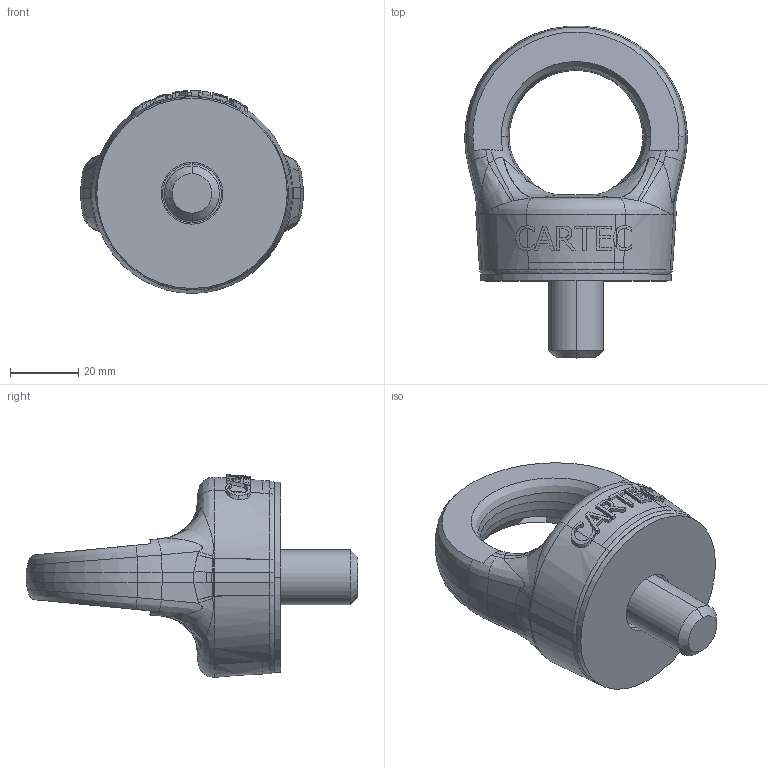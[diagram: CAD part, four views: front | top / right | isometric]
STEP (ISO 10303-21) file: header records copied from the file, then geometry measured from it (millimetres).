
FILE_DESCRIPTION(('STEP AP214'),'1');
FILE_NAME('c817x16.stp','2017-03-27T13:07:52',('TraceParts'),('TraceParts S.A.'),'Spatial InterOp 3D',' ',' ');
FILE_SCHEMA(('automotive_design'));
Length unit declared in the file: millimetre
Products named in the file (3): c817x16_1; c817x16_2; c817x16_3
Bounding box: 65 x 96.99 x 59.25 mm (x, y, z)
Volume: 89748.3 mm3; surface area: 24220 mm2
Topology: 3 solids, 3 shells, 316 faces, 853 edges, 550 vertices
Faces by surface type: bspline 128, plane 84, cylinder 66, cone 30, torus 8
Entity records: 20627 total; most frequent: CARTESIAN_POINT 10912, ORIENTED_EDGE 1702, DIRECTION 1193, EDGE_CURVE 851, VERTEX_POINT 550, AXIS2_PLACEMENT_3D 449, EDGE_LOOP 331, STYLED_ITEM 319
